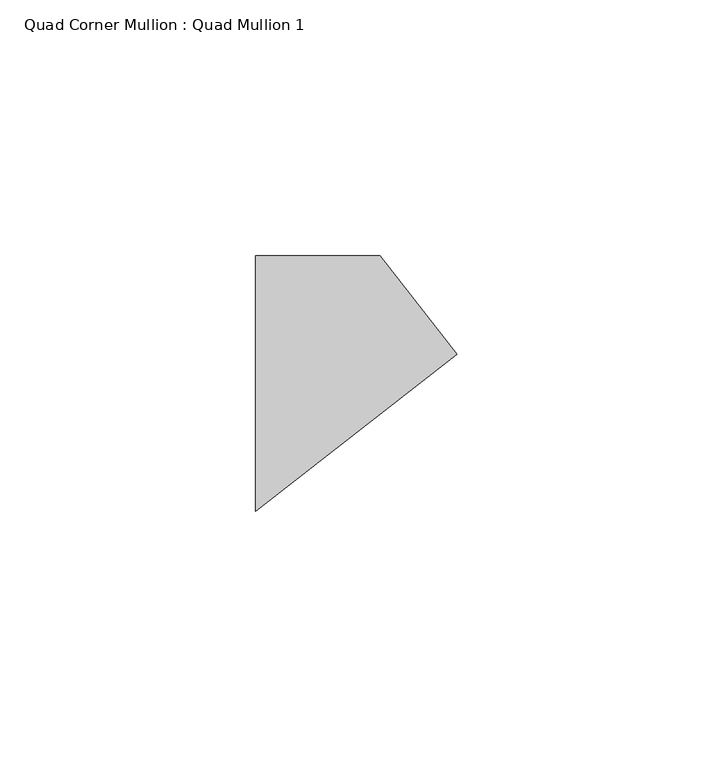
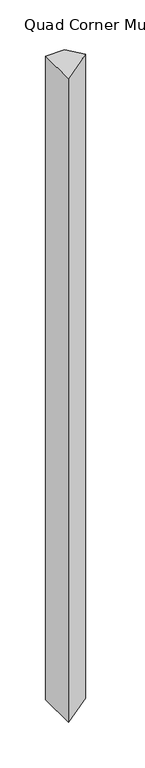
"""IFC4 building model written with IfcOpenShell, lengths in millimetres: member geometry, Quad Corner Mullion : Quad Mullion 1."""

from ifc_helpers import new_model, si_unit, frame, origin, place, context, project, spatial, polyline, outline, extrude, source, transform, mapped, element, save


def quad_corner_mullion_quad_mullion_1_88452109(model_context):
    return source(origin(), model_context, "Body", "SweptSolid", [
        extrude(outline(polyline([(27.207223, 5.7830738), (-12.1933147, -25.0), (-12.1933147, 25.0), (12.1933147, 25.0), (27.207223, 5.7830738)])), frame((0.0, 0.0, -860.0), z_axis=(0.0, 0.0, 1.0), x_axis=(1.0, 0.0, 0.0)), (0.0, 0.0, 1.0), 860.0),
    ])


if __name__ == "__main__":
    model = new_model("IFC4")
    model_context = context("Model", 3, world=origin())
    ifc_project = project(units=[si_unit("LENGTHUNIT", "METRE", prefix="MILLI")], contexts=[model_context])
    site = spatial("IfcSite", under=ifc_project)
    building = spatial("IfcBuilding", under=site)
    placement = place(None, origin())
    quad_corner_mullion_quad_mullion_1_shape = quad_corner_mullion_quad_mullion_1_88452109(model_context)
    element("IfcMember", 1, ObjectType="Quad Corner Mullion : Quad Mullion 1", at=placement, inside=building, context=model_context, shape_type="MappedRepresentation", body=[
        mapped(quad_corner_mullion_quad_mullion_1_shape, transform((0.0, 0.0, 0.0), x_axis=(1.0, 0.0, 0.0), y_axis=(0.0, 1.0, 0.0), z_axis=(0.0, 0.0, 1.0))),
    ])
    save(model, "model.ifc")
